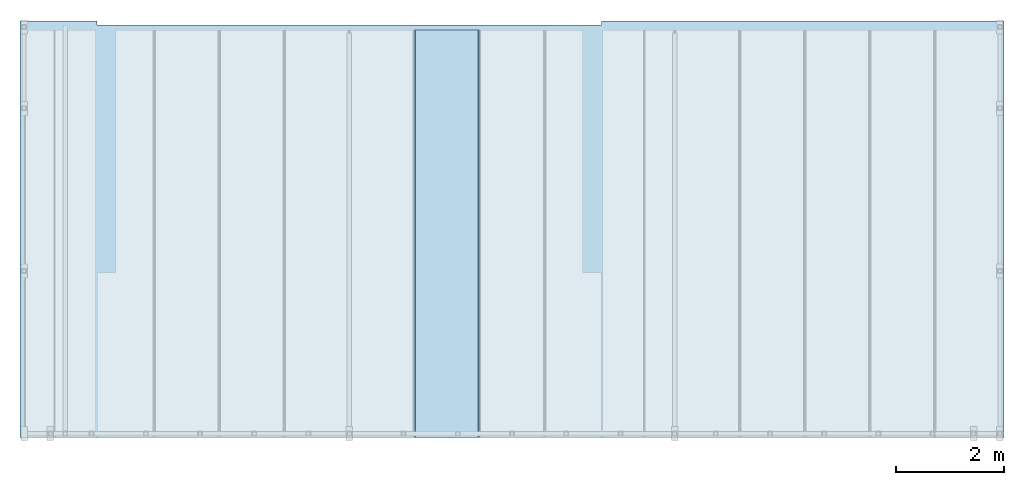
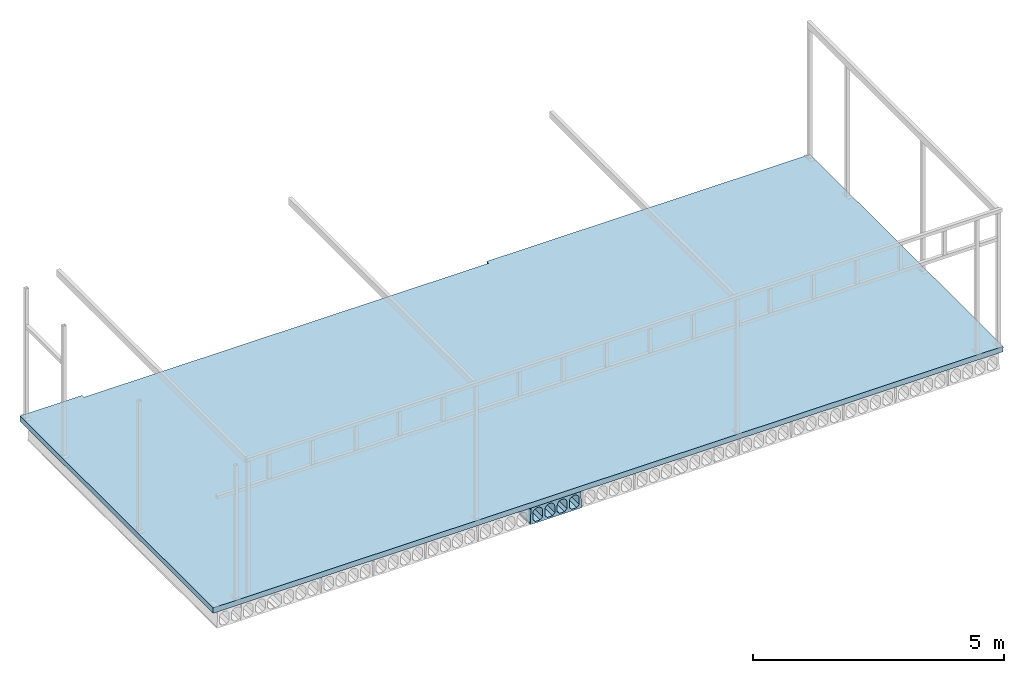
# One storey, part 12 of 20: 3 slabs.
"""IFC2X3 building model written with IfcOpenShell, lengths in millimetres."""

from ifc_helpers import new_model, entity, si_unit, converted_unit, derived_unit, direction, frame, origin_with_axes, place, context, subcontext, project, spatial, faceted_brep, type_object, element, save


model = new_model("IFC2X3")

# Units and contexts
model_context = context("Model", 3, precision=0.01, world=frame((0.0, 4.29681676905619e-09, 0.0)), true_north=direction((4.01073788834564e-13, 1.0)))
plan_context = context("Plan", 3, precision=0.01, world=frame((0.0, 4.29681676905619e-09, 0.0)), true_north=direction((4.01073788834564e-13, 1.0)))
body_context = subcontext(model_context, "Body", "Model", "MODEL_VIEW")
ifc_project = project(units=[converted_unit("PLANEANGLEUNIT", "DEGREE", entity("IfcPositiveLengthMeasure", 0.0174532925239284), si_unit("PLANEANGLEUNIT", "RADIAN"), dimensions=[0, 0, 0, 0, 0, 0, 0]), si_unit("AREAUNIT", "SQUARE_METRE"), si_unit("LENGTHUNIT", "METRE", prefix="MILLI"), si_unit("MASSUNIT", "GRAM", prefix="KILO"), si_unit("POWERUNIT", "WATT"), si_unit("PRESSUREUNIT", "PASCAL", prefix="KILO"), si_unit("FORCEUNIT", "NEWTON", prefix="KILO"), si_unit("ELECTRICVOLTAGEUNIT", "VOLT"), si_unit("ELECTRICCURRENTUNIT", "AMPERE"), si_unit("THERMODYNAMICTEMPERATUREUNIT", "DEGREE_CELSIUS"), si_unit("TIMEUNIT", "SECOND"), si_unit("VOLUMEUNIT", "CUBIC_METRE"), derived_unit("LINEARVELOCITYUNIT", [(si_unit("LENGTHUNIT", "METRE"), 1), (si_unit("TIMEUNIT", "SECOND"), -1)]), derived_unit("VOLUMETRICFLOWRATEUNIT", [(si_unit("VOLUMEUNIT", "CUBIC_METRE"), 1), (si_unit("TIMEUNIT", "SECOND"), -1)]), derived_unit("THERMALTRANSMITTANCEUNIT", [(si_unit("POWERUNIT", "WATT"), 1), (si_unit("THERMODYNAMICTEMPERATUREUNIT", "KELVIN"), -1), (si_unit("AREAUNIT", "SQUARE_METRE"), -1)]), derived_unit("SOUNDPRESSUREUNIT", [(si_unit("PRESSUREUNIT", "PASCAL"), 1)])], contexts=[model_context, plan_context])

# Site, building, storey
site_placement = place(None, frame((0.0, -4.29681676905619e-09, 0.0), z_axis=(0.0, 0.0, 1.0), x_axis=(1.0, 0.0, 0.0)))
site = spatial("IfcSite", under=ifc_project, at=site_placement, Name="Gardermoen", CompositionType="ELEMENT")
building_placement = place(site_placement, frame((0.0, 4.29681676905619e-09, 0.0), z_axis=(0.0, 0.0, 1.0), x_axis=(1.0, 0.0, 0.0)))
building = spatial("IfcBuilding", under=site, at=building_placement, Name="TS", CompositionType="ELEMENT")
storey_placement = place(building_placement, origin_with_axes())
storey = spatial("IfcBuildingStorey", under=building, at=storey_placement, Name="D", CompositionType="ELEMENT", Elevation=0.0)

# Slabs
slab_type_1 = type_object("IfcSlabType", Name="HD400", PredefinedType="NOTDEFINED")
slab_1_placement = place(storey_placement, frame((602799.999766, 396739.995625, 203600.0), z_axis=(0.0, 0.0, 1.0), x_axis=(0.0, 1.0, 0.0)))
element("IfcSlab", 1, at=slab_1_placement, inside=storey, type_object=slab_type_1, Name="HULLDEKKE", ObjectType="HD400", PredefinedType="FLOOR", context=body_context, shape_type="Brep", body=[
    faceted_brep([(996.504375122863, 600.0, -180.0), (996.504375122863, 600.0, -190.0), (8520.0, 600.0, -190.0), (8520.0, 600.0, -180.0), (996.504375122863, 585.0, -170.0), (8520.0, 585.0, -170.0), (996.504375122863, 577.5, 145.0), (8520.0, 577.5, 145.0), (996.504375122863, 570.0, 160.0), (8520.0, 570.0, 160.0), (996.504375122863, 577.5, 175.0), (8520.0, 577.5, 175.0), (996.504375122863, 577.5, 200.0), (8520.0, 577.5, 200.0), (996.504375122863, -577.5, 200.0), (8520.0, -577.5, 200.0), (996.504375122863, -577.5, 175.0), (8520.0, -577.5, 175.0), (996.504375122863, -570.0, 160.0), (8520.0, -570.0, 160.0), (996.504375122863, -577.5, 145.0), (8520.0, -577.5, 145.0), (996.504375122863, -585.0, -170.0), (8520.0, -585.0, -170.0), (996.504375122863, -600.0, -180.0), (8520.0, -600.0, -180.0), (996.504375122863, -600.0, -190.0), (8520.0, -600.0, -190.0), (996.504375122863, -583.380004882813, -200.0), (8520.0, -583.380004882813, -200.0), (996.504375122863, 583.380004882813, -200.0), (8520.0, 583.380004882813, -200.0), (996.504375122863, -477.5, -160.0), (996.504375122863, -362.5, -160.0), (8520.0, -362.5, -160.0), (8520.0, -477.5, -160.0), (996.504375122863, -532.5, -105.0), (8520.0, -532.5, -105.0), (996.504375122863, -532.5, 47.5), (8520.0, -532.5, 47.5), (996.504375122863, -532.115755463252, 56.7901763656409), (8520.0, -532.115755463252, 56.7901763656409), (996.504375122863, -530.965646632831, 66.0168914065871), (8520.0, -530.965646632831, 66.0168914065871), (996.504375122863, -529.057529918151, 75.1171173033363), (8520.0, -529.057529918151, 75.1171173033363), (996.504375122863, -526.404439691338, 84.028690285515), (8520.0, -526.404439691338, 84.028690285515), (996.504375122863, -523.024499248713, 92.6907352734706), (8520.0, -523.024499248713, 92.6907352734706), (996.504375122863, -518.940797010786, 101.044081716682), (8520.0, -518.940797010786, 101.044081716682), (996.504375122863, -514.181228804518, 109.031667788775), (8520.0, -514.181228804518, 109.031667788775), (996.504375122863, -508.778307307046, 116.598930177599), (8520.0, -508.778307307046, 116.598930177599), (996.504375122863, -502.768939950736, 123.694176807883), (8520.0, -502.768939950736, 123.694176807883), (996.504375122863, -496.194176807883, 130.268939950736), (8520.0, -496.194176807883, 130.268939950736), (996.504375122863, -489.098930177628, 136.278307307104), (8520.0, -489.098930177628, 136.278307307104), (996.504375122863, -481.531667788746, 141.681228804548), (8520.0, -481.531667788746, 141.681228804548), (996.504375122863, -473.544081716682, 146.440797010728), (8520.0, -473.544081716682, 146.440797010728), (996.504375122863, -465.190735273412, 150.524499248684), (8520.0, -465.190735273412, 150.524499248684), (996.504375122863, -456.528690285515, 153.904439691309), (8520.0, -456.528690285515, 153.904439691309), (996.504375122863, -447.617117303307, 156.55752991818), (8520.0, -447.617117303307, 156.55752991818), (996.504375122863, -438.516891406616, 158.465646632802), (8520.0, -438.516891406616, 158.465646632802), (996.504375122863, -429.290176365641, 159.615755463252), (8520.0, -429.290176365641, 159.615755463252), (996.504375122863, -420.0, 160.0), (8520.0, -420.0, 160.0), (996.504375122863, -410.709823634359, 159.615755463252), (8520.0, -410.709823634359, 159.615755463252), (996.504375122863, -401.483108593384, 158.465646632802), (8520.0, -401.483108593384, 158.465646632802), (996.504375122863, -392.382882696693, 156.55752991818), (8520.0, -392.382882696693, 156.55752991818), (996.504375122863, -383.471309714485, 153.904439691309), (8520.0, -383.471309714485, 153.904439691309), (996.504375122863, -374.809264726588, 150.524499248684), (8520.0, -374.809264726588, 150.524499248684), (996.504375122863, -366.455918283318, 146.440797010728), (8520.0, -366.455918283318, 146.440797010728), (996.504375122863, -358.468332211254, 141.681228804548), (8520.0, -358.468332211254, 141.681228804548), (996.504375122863, -350.901069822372, 136.278307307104), (8520.0, -350.901069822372, 136.278307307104), (996.504375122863, -343.805823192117, 130.268939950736), (8520.0, -343.805823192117, 130.268939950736), (996.504375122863, -337.231060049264, 123.694176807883), (8520.0, -337.231060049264, 123.694176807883), (996.504375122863, -331.221692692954, 116.598930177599), (8520.0, -331.221692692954, 116.598930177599), (996.504375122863, -325.818771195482, 109.031667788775), (8520.0, -325.818771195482, 109.031667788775), (996.504375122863, -321.059202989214, 101.044081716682), (8520.0, -321.059202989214, 101.044081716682), (996.504375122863, -316.975500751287, 92.6907352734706), (8520.0, -316.975500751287, 92.6907352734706), (996.504375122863, -313.595560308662, 84.028690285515), (8520.0, -313.595560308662, 84.028690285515), (996.504375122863, -310.942470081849, 75.1171173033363), (8520.0, -310.942470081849, 75.1171173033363), (996.504375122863, -309.034353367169, 66.0168914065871), (8520.0, -309.034353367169, 66.0168914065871), (996.504375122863, -307.884244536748, 56.7901763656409), (8520.0, -307.884244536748, 56.7901763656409), (996.504375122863, -307.5, 47.5), (8520.0, -307.5, 47.5), (996.504375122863, -307.5, -105.0), (8520.0, -307.5, -105.0), (996.504375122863, -197.5, -160.0), (996.504375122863, -82.5, -160.0), (8520.0, -82.5, -160.0), (8520.0, -197.5, -160.0), (996.504375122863, -252.5, -105.0), (8520.0, -252.5, -105.0), (996.504375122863, -252.5, 47.5), (8520.0, -252.5, 47.5), (996.504375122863, -252.115755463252, 56.7901763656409), (8520.0, -252.115755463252, 56.7901763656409), (996.504375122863, -250.965646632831, 66.0168914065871), (8520.0, -250.965646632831, 66.0168914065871), (996.504375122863, -249.057529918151, 75.1171173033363), (8520.0, -249.057529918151, 75.1171173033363), (996.504375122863, -246.404439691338, 84.028690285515), (8520.0, -246.404439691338, 84.028690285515), (996.504375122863, -243.024499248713, 92.6907352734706), (8520.0, -243.024499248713, 92.6907352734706), (996.504375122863, -238.940797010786, 101.044081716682), (8520.0, -238.940797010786, 101.044081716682), (996.504375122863, -234.181228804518, 109.031667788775), (8520.0, -234.181228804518, 109.031667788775), (996.504375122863, -228.778307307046, 116.598930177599), (8520.0, -228.778307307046, 116.598930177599), (996.504375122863, -222.768939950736, 123.694176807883), (8520.0, -222.768939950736, 123.694176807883), (996.504375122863, -216.194176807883, 130.268939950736), (8520.0, -216.194176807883, 130.268939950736), (996.504375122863, -209.098930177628, 136.278307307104), (8520.0, -209.098930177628, 136.278307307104), (996.504375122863, -201.531667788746, 141.681228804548), (8520.0, -201.531667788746, 141.681228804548), (996.504375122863, -193.544081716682, 146.440797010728), (8520.0, -193.544081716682, 146.440797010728), (996.504375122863, -185.190735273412, 150.524499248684), (8520.0, -185.190735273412, 150.524499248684), (996.504375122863, -176.528690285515, 153.904439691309), (8520.0, -176.528690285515, 153.904439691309), (996.504375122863, -167.617117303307, 156.55752991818), (8520.0, -167.617117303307, 156.55752991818), (996.504375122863, -158.516891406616, 158.465646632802), (8520.0, -158.516891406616, 158.465646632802), (996.504375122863, -149.290176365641, 159.615755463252), (8520.0, -149.290176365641, 159.615755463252), (996.504375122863, -140.0, 160.0), (8520.0, -140.0, 160.0), (996.504375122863, -130.709823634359, 159.615755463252), (8520.0, -130.709823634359, 159.615755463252), (996.504375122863, -121.483108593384, 158.465646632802), (8520.0, -121.483108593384, 158.465646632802), (996.504375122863, -112.382882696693, 156.55752991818), (8520.0, -112.382882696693, 156.55752991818), (996.504375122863, -103.471309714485, 153.904439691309), (8520.0, -103.471309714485, 153.904439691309), (996.504375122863, -94.8092647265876, 150.524499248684), (8520.0, -94.8092647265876, 150.524499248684), (996.504375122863, -86.4559182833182, 146.440797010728), (8520.0, -86.4559182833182, 146.440797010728), (996.504375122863, -78.4683322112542, 141.681228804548), (8520.0, -78.4683322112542, 141.681228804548), (996.504375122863, -70.9010698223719, 136.278307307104), (8520.0, -70.9010698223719, 136.278307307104), (996.504375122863, -63.8058231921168, 130.268939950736), (8520.0, -63.8058231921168, 130.268939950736), (996.504375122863, -57.2310600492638, 123.694176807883), (8520.0, -57.2310600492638, 123.694176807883), (996.504375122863, -51.2216926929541, 116.598930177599), (8520.0, -51.2216926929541, 116.598930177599), (996.504375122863, -45.8187711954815, 109.031667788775), (8520.0, -45.8187711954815, 109.031667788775), (996.504375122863, -41.0592029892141, 101.044081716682), (8520.0, -41.0592029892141, 101.044081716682), (996.504375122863, -36.9755007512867, 92.6907352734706), (8520.0, -36.9755007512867, 92.6907352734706), (996.504375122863, -33.5955603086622, 84.028690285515), (8520.0, -33.5955603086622, 84.028690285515), (996.504375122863, -30.942470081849, 75.1171173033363), (8520.0, -30.942470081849, 75.1171173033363), (996.504375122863, -29.0343533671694, 66.0168914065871), (8520.0, -29.0343533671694, 66.0168914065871), (996.504375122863, -27.8842445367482, 56.7901763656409), (8520.0, -27.8842445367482, 56.7901763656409), (996.504375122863, -27.5, 47.5), (8520.0, -27.5, 47.5), (996.504375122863, -27.5, -105.0), (8520.0, -27.5, -105.0), (996.504375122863, 82.5, -160.0), (996.504375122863, 197.5, -160.0), (8520.0, 197.5, -160.0), (8520.0, 82.5, -160.0), (996.504375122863, 27.5, -105.0), (8520.0, 27.5, -105.0), (996.504375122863, 27.5, 47.5), (8520.0, 27.5, 47.5), (996.504375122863, 27.8842445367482, 56.7901763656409), (8520.0, 27.8842445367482, 56.7901763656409), (996.504375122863, 29.0343533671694, 66.0168914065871), (8520.0, 29.0343533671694, 66.0168914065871), (996.504375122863, 30.942470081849, 75.1171173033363), (8520.0, 30.942470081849, 75.1171173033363), (996.504375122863, 33.5955603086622, 84.028690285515), (8520.0, 33.5955603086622, 84.028690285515), (996.504375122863, 36.9755007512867, 92.6907352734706), (8520.0, 36.9755007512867, 92.6907352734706), (996.504375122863, 41.0592029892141, 101.044081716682), (8520.0, 41.0592029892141, 101.044081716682), (996.504375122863, 45.8187711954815, 109.031667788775), (8520.0, 45.8187711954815, 109.031667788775), (996.504375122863, 51.2216926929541, 116.598930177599), (8520.0, 51.2216926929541, 116.598930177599), (996.504375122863, 57.2310600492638, 123.694176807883), (8520.0, 57.2310600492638, 123.694176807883), (996.504375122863, 63.8058231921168, 130.268939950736), (8520.0, 63.8058231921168, 130.268939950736), (996.504375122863, 70.9010698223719, 136.278307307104), (8520.0, 70.9010698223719, 136.278307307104), (996.504375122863, 78.4683322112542, 141.681228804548), (8520.0, 78.4683322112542, 141.681228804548), (996.504375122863, 86.4559182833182, 146.440797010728), (8520.0, 86.4559182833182, 146.440797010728), (996.504375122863, 94.8092647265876, 150.524499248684), (8520.0, 94.8092647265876, 150.524499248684), (996.504375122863, 103.471309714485, 153.904439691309), (8520.0, 103.471309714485, 153.904439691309), (996.504375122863, 112.382882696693, 156.55752991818), (8520.0, 112.382882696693, 156.55752991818), (996.504375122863, 121.483108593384, 158.465646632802), (8520.0, 121.483108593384, 158.465646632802), (996.504375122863, 130.709823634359, 159.615755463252), (8520.0, 130.709823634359, 159.615755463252), (996.504375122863, 140.0, 160.0), (8520.0, 140.0, 160.0), (996.504375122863, 149.290176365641, 159.615755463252), (8520.0, 149.290176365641, 159.615755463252), (996.504375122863, 158.516891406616, 158.465646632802), (8520.0, 158.516891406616, 158.465646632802), (996.504375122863, 167.617117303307, 156.55752991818), (8520.0, 167.617117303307, 156.55752991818), (996.504375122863, 176.528690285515, 153.904439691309), (8520.0, 176.528690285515, 153.904439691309), (996.504375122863, 185.190735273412, 150.524499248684), (8520.0, 185.190735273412, 150.524499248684), (996.504375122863, 193.544081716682, 146.440797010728), (8520.0, 193.544081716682, 146.440797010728), (996.504375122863, 201.531667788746, 141.681228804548), (8520.0, 201.531667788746, 141.681228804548), (996.504375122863, 209.098930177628, 136.278307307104), (8520.0, 209.098930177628, 136.278307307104), (996.504375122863, 216.194176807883, 130.268939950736), (8520.0, 216.194176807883, 130.268939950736), (996.504375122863, 222.768939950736, 123.694176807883), (8520.0, 222.768939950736, 123.694176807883), (996.504375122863, 228.778307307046, 116.598930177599), (8520.0, 228.778307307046, 116.598930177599), (996.504375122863, 234.181228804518, 109.031667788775), (8520.0, 234.181228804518, 109.031667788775), (996.504375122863, 238.940797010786, 101.044081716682), (8520.0, 238.940797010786, 101.044081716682), (996.504375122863, 243.024499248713, 92.6907352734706), (8520.0, 243.024499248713, 92.6907352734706), (996.504375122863, 246.404439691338, 84.028690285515), (8520.0, 246.404439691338, 84.028690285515), (996.504375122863, 249.057529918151, 75.1171173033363), (8520.0, 249.057529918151, 75.1171173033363), (996.504375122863, 250.965646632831, 66.0168914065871), (8520.0, 250.965646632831, 66.0168914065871), (996.504375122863, 252.115755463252, 56.7901763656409), (8520.0, 252.115755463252, 56.7901763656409), (996.504375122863, 252.5, 47.5), (8520.0, 252.5, 47.5), (996.504375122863, 252.5, -105.0), (8520.0, 252.5, -105.0), (996.504375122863, 362.5, -160.0), (996.504375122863, 477.5, -160.0), (8520.0, 477.5, -160.0), (8520.0, 362.5, -160.0), (996.504375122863, 307.5, -105.0), (8520.0, 307.5, -105.0), (996.504375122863, 307.5, 47.5), (8520.0, 307.5, 47.5), (996.504375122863, 307.884244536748, 56.7901763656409), (8520.0, 307.884244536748, 56.7901763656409), (996.504375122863, 309.034353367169, 66.0168914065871), (8520.0, 309.034353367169, 66.0168914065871), (996.504375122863, 310.942470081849, 75.1171173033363), (8520.0, 310.942470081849, 75.1171173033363), (996.504375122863, 313.595560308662, 84.028690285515), (8520.0, 313.595560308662, 84.028690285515), (996.504375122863, 316.975500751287, 92.6907352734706), (8520.0, 316.975500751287, 92.6907352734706), (996.504375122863, 321.059202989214, 101.044081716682), (8520.0, 321.059202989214, 101.044081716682), (996.504375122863, 325.818771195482, 109.031667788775), (8520.0, 325.818771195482, 109.031667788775), (996.504375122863, 331.221692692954, 116.598930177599), (8520.0, 331.221692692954, 116.598930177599), (996.504375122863, 337.231060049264, 123.694176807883), (8520.0, 337.231060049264, 123.694176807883), (996.504375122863, 343.805823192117, 130.268939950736), (8520.0, 343.805823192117, 130.268939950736), (996.504375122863, 350.901069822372, 136.278307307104), (8520.0, 350.901069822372, 136.278307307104), (996.504375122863, 358.468332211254, 141.681228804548), (8520.0, 358.468332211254, 141.681228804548), (996.504375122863, 366.455918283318, 146.440797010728), (8520.0, 366.455918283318, 146.440797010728), (996.504375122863, 374.809264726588, 150.524499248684), (8520.0, 374.809264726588, 150.524499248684), (996.504375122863, 383.471309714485, 153.904439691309), (8520.0, 383.471309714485, 153.904439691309), (996.504375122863, 392.382882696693, 156.55752991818), (8520.0, 392.382882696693, 156.55752991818), (996.504375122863, 401.483108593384, 158.465646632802), (8520.0, 401.483108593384, 158.465646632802), (996.504375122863, 410.709823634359, 159.615755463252), (8520.0, 410.709823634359, 159.615755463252), (996.504375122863, 420.0, 160.0), (8520.0, 420.0, 160.0), (996.504375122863, 429.290176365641, 159.615755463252), (8520.0, 429.290176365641, 159.615755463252), (996.504375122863, 438.516891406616, 158.465646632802), (8520.0, 438.516891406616, 158.465646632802), (996.504375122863, 447.617117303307, 156.55752991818), (8520.0, 447.617117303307, 156.55752991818), (996.504375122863, 456.528690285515, 153.904439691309), (8520.0, 456.528690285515, 153.904439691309), (996.504375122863, 465.190735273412, 150.524499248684), (8520.0, 465.190735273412, 150.524499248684), (996.504375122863, 473.544081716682, 146.440797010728), (8520.0, 473.544081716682, 146.440797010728), (996.504375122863, 481.531667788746, 141.681228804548), (8520.0, 481.531667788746, 141.681228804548), (996.504375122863, 489.098930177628, 136.278307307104), (8520.0, 489.098930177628, 136.278307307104), (996.504375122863, 496.194176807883, 130.268939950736), (8520.0, 496.194176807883, 130.268939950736), (996.504375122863, 502.768939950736, 123.694176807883), (8520.0, 502.768939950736, 123.694176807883), (996.504375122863, 508.778307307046, 116.598930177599), (8520.0, 508.778307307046, 116.598930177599), (996.504375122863, 514.181228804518, 109.031667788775), (8520.0, 514.181228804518, 109.031667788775), (996.504375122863, 518.940797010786, 101.044081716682), (8520.0, 518.940797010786, 101.044081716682), (996.504375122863, 523.024499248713, 92.6907352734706), (8520.0, 523.024499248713, 92.6907352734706), (996.504375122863, 526.404439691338, 84.028690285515), (8520.0, 526.404439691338, 84.028690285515), (996.504375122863, 529.057529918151, 75.1171173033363), (8520.0, 529.057529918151, 75.1171173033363), (996.504375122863, 530.965646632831, 66.0168914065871), (8520.0, 530.965646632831, 66.0168914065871), (996.504375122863, 532.115755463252, 56.7901763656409), (8520.0, 532.115755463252, 56.7901763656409), (996.504375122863, 532.5, 47.5), (8520.0, 532.5, 47.5), (996.504375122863, 532.5, -105.0), (8520.0, 532.5, -105.0)], [[[0, 1, 2, 3]], [[4, 0, 3, 5]], [[6, 4, 5, 7]], [[8, 6, 7, 9]], [[10, 8, 9, 11]], [[12, 10, 11, 13]], [[14, 12, 13, 15]], [[16, 14, 15, 17]], [[18, 16, 17, 19]], [[20, 18, 19, 21]], [[22, 20, 21, 23]], [[24, 22, 23, 25]], [[26, 24, 25, 27]], [[28, 26, 27, 29]], [[30, 28, 29, 31]], [[1, 30, 31, 2]], [[32, 33, 34, 35]], [[36, 32, 35, 37]], [[38, 36, 37, 39]], [[40, 38, 39, 41]], [[42, 40, 41, 43]], [[44, 42, 43, 45]], [[46, 44, 45, 47]], [[48, 46, 47, 49]], [[50, 48, 49, 51]], [[52, 50, 51, 53]], [[54, 52, 53, 55]], [[56, 54, 55, 57]], [[58, 56, 57, 59]], [[60, 58, 59, 61]], [[62, 60, 61, 63]], [[64, 62, 63, 65]], [[66, 64, 65, 67]], [[68, 66, 67, 69]], [[70, 68, 69, 71]], [[72, 70, 71, 73]], [[74, 72, 73, 75]], [[76, 74, 75, 77]], [[78, 76, 77, 79]], [[80, 78, 79, 81]], [[82, 80, 81, 83]], [[84, 82, 83, 85]], [[86, 84, 85, 87]], [[88, 86, 87, 89]], [[90, 88, 89, 91]], [[92, 90, 91, 93]], [[94, 92, 93, 95]], [[96, 94, 95, 97]], [[98, 96, 97, 99]], [[100, 98, 99, 101]], [[102, 100, 101, 103]], [[104, 102, 103, 105]], [[106, 104, 105, 107]], [[108, 106, 107, 109]], [[110, 108, 109, 111]], [[112, 110, 111, 113]], [[114, 112, 113, 115]], [[116, 114, 115, 117]], [[33, 116, 117, 34]], [[118, 119, 120, 121]], [[122, 118, 121, 123]], [[124, 122, 123, 125]], [[126, 124, 125, 127]], [[128, 126, 127, 129]], [[130, 128, 129, 131]], [[132, 130, 131, 133]], [[134, 132, 133, 135]], [[136, 134, 135, 137]], [[138, 136, 137, 139]], [[140, 138, 139, 141]], [[142, 140, 141, 143]], [[144, 142, 143, 145]], [[146, 144, 145, 147]], [[148, 146, 147, 149]], [[150, 148, 149, 151]], [[152, 150, 151, 153]], [[154, 152, 153, 155]], [[156, 154, 155, 157]], [[158, 156, 157, 159]], [[160, 158, 159, 161]], [[162, 160, 161, 163]], [[164, 162, 163, 165]], [[166, 164, 165, 167]], [[168, 166, 167, 169]], [[170, 168, 169, 171]], [[172, 170, 171, 173]], [[174, 172, 173, 175]], [[176, 174, 175, 177]], [[178, 176, 177, 179]], [[180, 178, 179, 181]], [[182, 180, 181, 183]], [[184, 182, 183, 185]], [[186, 184, 185, 187]], [[188, 186, 187, 189]], [[190, 188, 189, 191]], [[192, 190, 191, 193]], [[194, 192, 193, 195]], [[196, 194, 195, 197]], [[198, 196, 197, 199]], [[200, 198, 199, 201]], [[202, 200, 201, 203]], [[119, 202, 203, 120]], [[204, 205, 206, 207]], [[208, 204, 207, 209]], [[210, 208, 209, 211]], [[212, 210, 211, 213]], [[214, 212, 213, 215]], [[216, 214, 215, 217]], [[218, 216, 217, 219]], [[220, 218, 219, 221]], [[222, 220, 221, 223]], [[224, 222, 223, 225]], [[226, 224, 225, 227]], [[228, 226, 227, 229]], [[230, 228, 229, 231]], [[232, 230, 231, 233]], [[234, 232, 233, 235]], [[236, 234, 235, 237]], [[238, 236, 237, 239]], [[240, 238, 239, 241]], [[242, 240, 241, 243]], [[244, 242, 243, 245]], [[246, 244, 245, 247]], [[248, 246, 247, 249]], [[250, 248, 249, 251]], [[252, 250, 251, 253]], [[254, 252, 253, 255]], [[256, 254, 255, 257]], [[258, 256, 257, 259]], [[260, 258, 259, 261]], [[262, 260, 261, 263]], [[264, 262, 263, 265]], [[266, 264, 265, 267]], [[268, 266, 267, 269]], [[270, 268, 269, 271]], [[272, 270, 271, 273]], [[274, 272, 273, 275]], [[276, 274, 275, 277]], [[278, 276, 277, 279]], [[280, 278, 279, 281]], [[282, 280, 281, 283]], [[284, 282, 283, 285]], [[286, 284, 285, 287]], [[288, 286, 287, 289]], [[205, 288, 289, 206]], [[290, 291, 292, 293]], [[294, 290, 293, 295]], [[296, 294, 295, 297]], [[298, 296, 297, 299]], [[300, 298, 299, 301]], [[302, 300, 301, 303]], [[304, 302, 303, 305]], [[306, 304, 305, 307]], [[308, 306, 307, 309]], [[310, 308, 309, 311]], [[312, 310, 311, 313]], [[314, 312, 313, 315]], [[316, 314, 315, 317]], [[318, 316, 317, 319]], [[320, 318, 319, 321]], [[322, 320, 321, 323]], [[324, 322, 323, 325]], [[326, 324, 325, 327]], [[328, 326, 327, 329]], [[330, 328, 329, 331]], [[332, 330, 331, 333]], [[334, 332, 333, 335]], [[336, 334, 335, 337]], [[338, 336, 337, 339]], [[340, 338, 339, 341]], [[342, 340, 341, 343]], [[344, 342, 343, 345]], [[346, 344, 345, 347]], [[348, 346, 347, 349]], [[350, 348, 349, 351]], [[352, 350, 351, 353]], [[354, 352, 353, 355]], [[356, 354, 355, 357]], [[358, 356, 357, 359]], [[360, 358, 359, 361]], [[362, 360, 361, 363]], [[364, 362, 363, 365]], [[366, 364, 365, 367]], [[368, 366, 367, 369]], [[370, 368, 369, 371]], [[372, 370, 371, 373]], [[374, 372, 373, 375]], [[291, 374, 375, 292]], [[3, 2, 31, 29, 27, 25, 23, 21, 19, 17, 15, 13, 11, 9, 7, 5], [293, 292, 375, 373, 371, 369, 367, 365, 363, 361, 359, 357, 355, 353, 351, 349, 347, 345, 343, 341, 339, 337, 335, 333, 331, 329, 327, 325, 323, 321, 319, 317, 315, 313, 311, 309, 307, 305, 303, 301, 299, 297, 295], [207, 206, 289, 287, 285, 283, 281, 279, 277, 275, 273, 271, 269, 267, 265, 263, 261, 259, 257, 255, 253, 251, 249, 247, 245, 243, 241, 239, 237, 235, 233, 231, 229, 227, 225, 223, 221, 219, 217, 215, 213, 211, 209], [121, 120, 203, 201, 199, 197, 195, 193, 191, 189, 187, 185, 183, 181, 179, 177, 175, 173, 171, 169, 167, 165, 163, 161, 159, 157, 155, 153, 151, 149, 147, 145, 143, 141, 139, 137, 135, 133, 131, 129, 127, 125, 123], [35, 34, 117, 115, 113, 111, 109, 107, 105, 103, 101, 99, 97, 95, 93, 91, 89, 87, 85, 83, 81, 79, 77, 75, 73, 71, 69, 67, 65, 63, 61, 59, 57, 55, 53, 51, 49, 47, 45, 43, 41, 39, 37]], [[4, 6, 8, 10, 12, 14, 16, 18, 20, 22, 24, 26, 28, 30, 1, 0], [36, 38, 40, 42, 44, 46, 48, 50, 52, 54, 56, 58, 60, 62, 64, 66, 68, 70, 72, 74, 76, 78, 80, 82, 84, 86, 88, 90, 92, 94, 96, 98, 100, 102, 104, 106, 108, 110, 112, 114, 116, 33, 32], [122, 124, 126, 128, 130, 132, 134, 136, 138, 140, 142, 144, 146, 148, 150, 152, 154, 156, 158, 160, 162, 164, 166, 168, 170, 172, 174, 176, 178, 180, 182, 184, 186, 188, 190, 192, 194, 196, 198, 200, 202, 119, 118], [208, 210, 212, 214, 216, 218, 220, 222, 224, 226, 228, 230, 232, 234, 236, 238, 240, 242, 244, 246, 248, 250, 252, 254, 256, 258, 260, 262, 264, 266, 268, 270, 272, 274, 276, 278, 280, 282, 284, 286, 288, 205, 204], [294, 296, 298, 300, 302, 304, 306, 308, 310, 312, 314, 316, 318, 320, 322, 324, 326, 328, 330, 332, 334, 336, 338, 340, 342, 344, 346, 348, 350, 352, 354, 356, 358, 360, 362, 364, 366, 368, 370, 372, 374, 291, 290]]], orient=[[False], [False], [False], [False], [False], [False], [False], [False], [False], [False], [False], [False], [False], [False], [False], [False], [False], [False], [False], [False], [False], [False], [False], [False], [False], [False], [False], [False], [False], [False], [False], [False], [False], [False], [False], [False], [False], [False], [False], [False], [False], [False], [False], [False], [False], [False], [False], [False], [False], [False], [False], [False], [False], [False], [False], [False], [False], [False], [False], [False], [False], [False], [False], [False], [False], [False], [False], [False], [False], [False], [False], [False], [False], [False], [False], [False], [False], [False], [False], [False], [False], [False], [False], [False], [False], [False], [False], [False], [False], [False], [False], [False], [False], [False], [False], [False], [False], [False], [False], [False], [False], [False], [False], [False], [False], [False], [False], [False], [False], [False], [False], [False], [False], [False], [False], [False], [False], [False], [False], [False], [False], [False], [False], [False], [False], [False], [False], [False], [False], [False], [False], [False], [False], [False], [False], [False], [False], [False], [False], [False], [False], [False], [False], [False], [False], [False], [False], [False], [False], [False], [False], [False], [False], [False], [False], [False], [False], [False], [False], [False], [False], [False], [False], [False], [False], [False], [False], [False], [False], [False], [False], [False], [False], [False], [False], [False], [False], [False], [False], [False], [False], [False], [False], [False], [False], [False], [False], [False], [False, False, False, False, False], [False, False, False, False, False]]),
])
slab_type_2 = type_object("IfcSlabType", Name="130*45000", PredefinedType="NOTDEFINED")
slab_2_placement = place(storey_placement, frame((583000.0, 396500.0, 203865.0), z_axis=(0.0, 1.0, 0.0), x_axis=(1.0, 0.0, 0.0)))
element("IfcSlab", 2, at=slab_2_placement, inside=storey, type_object=slab_type_2, Name="PÅSTØP", ObjectType="130*45000", PredefinedType="FLOOR", context=body_context, shape_type="Brep", body=[
    faceted_brep([(13350.0355881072, -65.0, 8925.0000001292), (13350.0355881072, 65.0, 8925.0000001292), (13350.0358881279, 65.0, 8849.99534857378), (13350.0358881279, -65.0, 8849.99534857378), (22649.9987789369, 65.0, 8849.99543879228), (22649.9987789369, -65.0, 8849.99543879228), (22649.9988584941, 65.0, 8925.0000001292), (22649.9988584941, -65.0, 8925.0000001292), (11925.5000000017, 64.9999999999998, 8925.0000001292), (11925.5000000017, 64.9999999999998, 1236.50000012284), (30074.5000000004, 64.9999999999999, 1236.50000012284), (30074.5000000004, 64.9999999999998, 8925.0000001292), (30074.5000000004, -65.0, 8925.0000001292), (30074.5000000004, -65.0, 1236.50000012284), (11925.5000000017, -65.0, 1236.50000012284), (11925.5000000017, -65.0, 8925.0000001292)], [[[0, 1, 2, 3]], [[3, 2, 4, 5]], [[6, 7, 5, 4]], [[1, 8, 9, 10, 11, 6, 4, 2]], [[7, 12, 13, 14, 15, 0, 3, 5]], [[13, 12, 11, 10]], [[8, 1, 0, 15]], [[12, 7, 6, 11]], [[15, 14, 9, 8]], [[14, 13, 10, 9]]], orient=[[False], [False], [False], [False], [False], [False], [False], [False], [False], [False]]),
])
slab_3_placement = place(storey_placement, frame((583000.0, 396500.0, 203865.0), z_axis=(0.0, 1.0, 0.0), x_axis=(1.0, 0.0, 0.0)))
element("IfcSlab", 3, at=slab_3_placement, inside=storey, type_object=slab_type_2, Name="PÅSTØP", ObjectType="130*45000", PredefinedType="FLOOR", context=body_context, shape_type="Brep", body=[
    faceted_brep([(13350.0355881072, -65.0, 8925.0000001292), (13350.0355881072, 65.0, 8925.0000001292), (13350.0358881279, 65.0, 8849.99534857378), (13350.0358881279, -65.0, 8849.99534857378), (22649.9987789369, 65.0, 8849.99543879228), (22649.9987789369, -65.0, 8849.99543879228), (22649.9988584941, 65.0, 8925.0000001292), (22649.9988584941, -65.0, 8925.0000001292), (30074.5000000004, -65.0, 8925.0000001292), (30074.5000000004, -65.0, 1236.50000012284), (11925.5000000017, -65.0, 1236.50000012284), (11925.5000000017, -65.0, 8925.0000001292), (11925.5000000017, 64.9999999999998, 8925.0000001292), (11925.5000000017, 64.9999999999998, 1236.50000012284), (30074.5000000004, 64.9999999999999, 1236.50000012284), (30074.5000000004, 64.9999999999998, 8925.0000001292)], [[[0, 1, 2, 3]], [[3, 2, 4, 5]], [[6, 7, 5, 4]], [[7, 8, 9, 10, 11, 0, 3, 5]], [[1, 12, 13, 14, 15, 6, 4, 2]], [[9, 8, 15, 14]], [[8, 7, 6, 15]], [[12, 1, 0, 11]], [[11, 10, 13, 12]], [[10, 9, 14, 13]]], orient=[[False], [False], [False], [False], [False], [False], [False], [False], [False], [False]]),
])

save(model, "model.ifc")
